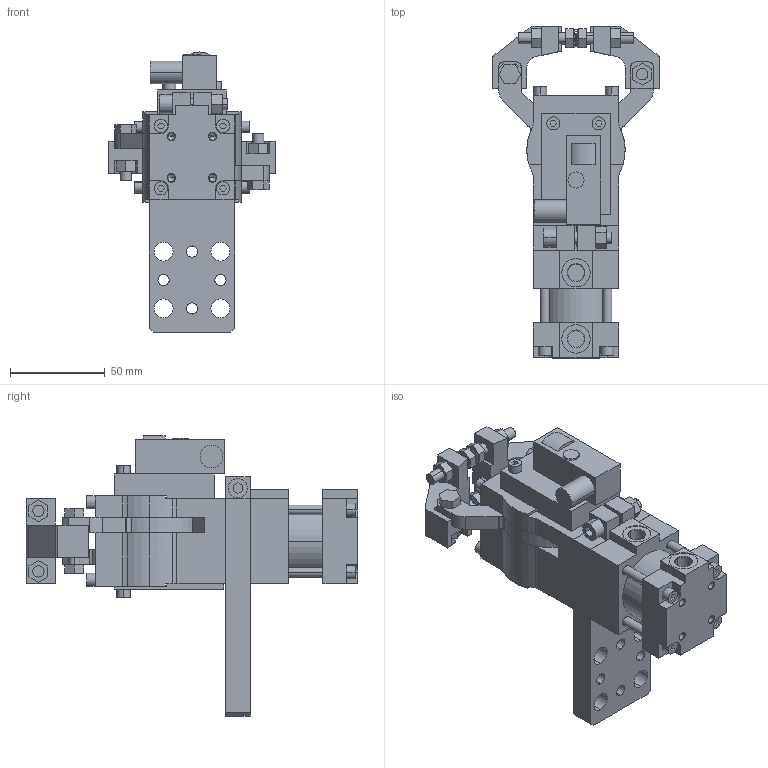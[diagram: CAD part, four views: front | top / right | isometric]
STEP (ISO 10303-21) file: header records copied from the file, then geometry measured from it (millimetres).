
FILE_DESCRIPTION (( 'STEP AP214' ), '1' );
FILE_NAME ('b32_b2sx_pla___a_a.STEP', '2018-05-08T12:55:12', ( 'vepadmin' ), ( 'Hewlett-Packard Company' ), 'SwSTEP 2.0', 'SolidWorks 2018', '' );
FILE_SCHEMA (( 'AUTOMOTIVE_DESIGN' ));
Length unit declared in the file: millimetre
Products named in the file (10): riparo_micro_b32; blocchetto_p&f_90; scatola_micro_b32; piastra_a_b32; tassello_b2_b32; leva_b32b; gruppo_montante_b32b; b32_b2sx_pla___a_a; piedino_zigrinato_M6x25; gruppo_cilindro_b32
Assembly tree (14 placements, depth 2):
  b32_b2sx_pla___a_a
    gruppo_montante_b32b
    leva_b32b  x2
    tassello_b2_b32  x2
    piastra_a_b32
    scatola_micro_b32
    blocchetto_p&f_90
    riparo_micro_b32
    gruppo_cilindro_b32
    piedino_zigrinato_M6x25  x4
Bounding box: 88 x 175.5 x 148.1 mm (x, y, z)
Volume: 385361.4 mm3; surface area: 110317.4 mm2
Topology: 14 solids, 14 shells, 1097 faces, 2615 edges, 1700 vertices
Faces by surface type: plane 805, cylinder 270, cone 22
Entity records: 19794 total; most frequent: CARTESIAN_POINT 3404, DIRECTION 3214, ORIENTED_EDGE 3156, EDGE_CURVE 1578, VECTOR 1164, LINE 1164, VERTEX_POINT 1035, AXIS2_PLACEMENT_3D 1025
